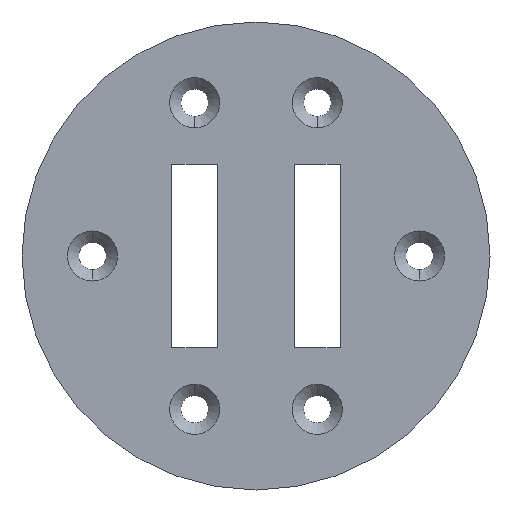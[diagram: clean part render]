
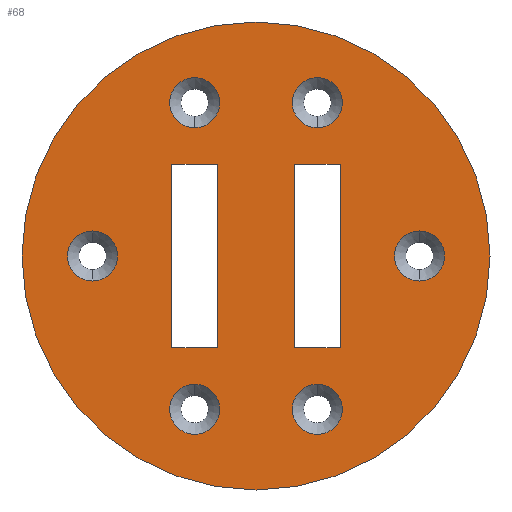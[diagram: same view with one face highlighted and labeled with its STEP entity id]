
A CAD part, front view. The second image highlights one B-rep face of the part: STEP entity #68.
In plain terms, the highlighted planar face has unit normal (0, -1, 0).
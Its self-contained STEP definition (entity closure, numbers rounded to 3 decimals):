
#47=FACE_BOUND('',#172,.F.);
#48=FACE_BOUND('',#173,.F.);
#49=FACE_BOUND('',#174,.F.);
#50=FACE_BOUND('',#175,.F.);
#51=FACE_BOUND('',#176,.F.);
#52=FACE_BOUND('',#177,.F.);
#53=FACE_BOUND('',#178,.F.);
#54=FACE_BOUND('',#179,.F.);
#56=PLANE('',#902);
#68=ADVANCED_FACE('',(#47,#48,#49,#50,#51,#52,#53,#54,#116),#56,.T.);
#116=FACE_OUTER_BOUND('',#180,.F.);
#172=EDGE_LOOP('',(#255,#256));
#173=EDGE_LOOP('',(#257,#258));
#174=EDGE_LOOP('',(#259,#260));
#175=EDGE_LOOP('',(#261,#262,#263,#264));
#176=EDGE_LOOP('',(#265,#266,#267,#268));
#177=EDGE_LOOP('',(#269,#270));
#178=EDGE_LOOP('',(#271,#272));
#179=EDGE_LOOP('',(#273,#274));
#180=EDGE_LOOP('',(#275,#276));
#255=ORIENTED_EDGE('',*,*,#618,.T.);
#256=ORIENTED_EDGE('',*,*,#617,.T.);
#257=ORIENTED_EDGE('',*,*,#626,.T.);
#258=ORIENTED_EDGE('',*,*,#625,.T.);
#259=ORIENTED_EDGE('',*,*,#634,.T.);
#260=ORIENTED_EDGE('',*,*,#633,.T.);
#261=ORIENTED_EDGE('',*,*,#645,.T.);
#262=ORIENTED_EDGE('',*,*,#647,.T.);
#263=ORIENTED_EDGE('',*,*,#649,.T.);
#264=ORIENTED_EDGE('',*,*,#643,.T.);
#265=ORIENTED_EDGE('',*,*,#637,.T.);
#266=ORIENTED_EDGE('',*,*,#639,.T.);
#267=ORIENTED_EDGE('',*,*,#641,.T.);
#268=ORIENTED_EDGE('',*,*,#635,.T.);
#269=ORIENTED_EDGE('',*,*,#630,.T.);
#270=ORIENTED_EDGE('',*,*,#629,.T.);
#271=ORIENTED_EDGE('',*,*,#622,.T.);
#272=ORIENTED_EDGE('',*,*,#621,.T.);
#273=ORIENTED_EDGE('',*,*,#614,.T.);
#274=ORIENTED_EDGE('',*,*,#613,.T.);
#275=ORIENTED_EDGE('',*,*,#656,.F.);
#276=ORIENTED_EDGE('',*,*,#652,.F.);
#487=LINE('',#1307,#549);
#489=LINE('',#1309,#551);
#491=LINE('',#1311,#553);
#493=LINE('',#1313,#555);
#495=LINE('',#1315,#557);
#497=LINE('',#1317,#559);
#499=LINE('',#1319,#561);
#501=LINE('',#1321,#563);
#549=VECTOR('',#998,4.5);
#551=VECTOR('',#1000,18.);
#553=VECTOR('',#1002,4.5);
#555=VECTOR('',#1004,18.);
#557=VECTOR('',#1006,4.5);
#559=VECTOR('',#1008,18.);
#561=VECTOR('',#1010,4.5);
#563=VECTOR('',#1012,18.);
#613=EDGE_CURVE('',#842,#841,#727,.T.);
#614=EDGE_CURVE('',#841,#842,#728,.T.);
#617=EDGE_CURVE('',#838,#837,#731,.T.);
#618=EDGE_CURVE('',#837,#838,#732,.T.);
#621=EDGE_CURVE('',#834,#833,#735,.T.);
#622=EDGE_CURVE('',#833,#834,#736,.T.);
#625=EDGE_CURVE('',#830,#829,#739,.T.);
#626=EDGE_CURVE('',#829,#830,#740,.T.);
#629=EDGE_CURVE('',#826,#825,#743,.T.);
#630=EDGE_CURVE('',#825,#826,#744,.T.);
#633=EDGE_CURVE('',#822,#821,#747,.T.);
#634=EDGE_CURVE('',#821,#822,#748,.T.);
#635=EDGE_CURVE('',#820,#819,#487,.T.);
#637=EDGE_CURVE('',#819,#816,#489,.T.);
#639=EDGE_CURVE('',#816,#814,#491,.T.);
#641=EDGE_CURVE('',#814,#820,#493,.T.);
#643=EDGE_CURVE('',#812,#811,#495,.T.);
#645=EDGE_CURVE('',#811,#808,#497,.T.);
#647=EDGE_CURVE('',#808,#806,#499,.T.);
#649=EDGE_CURVE('',#806,#812,#501,.T.);
#652=EDGE_CURVE('',#802,#801,#750,.T.);
#656=EDGE_CURVE('',#801,#802,#752,.T.);
#727=CIRCLE('',#849,2.45);
#728=CIRCLE('',#850,2.45);
#731=CIRCLE('',#853,2.45);
#732=CIRCLE('',#854,2.45);
#735=CIRCLE('',#857,2.45);
#736=CIRCLE('',#858,2.45);
#739=CIRCLE('',#861,2.45);
#740=CIRCLE('',#862,2.45);
#743=CIRCLE('',#865,2.45);
#744=CIRCLE('',#866,2.45);
#747=CIRCLE('',#869,2.45);
#748=CIRCLE('',#870,2.45);
#750=CIRCLE('',#872,22.9);
#752=CIRCLE('',#874,22.9);
#801=VERTEX_POINT('',#1239);
#802=VERTEX_POINT('',#1240);
#806=VERTEX_POINT('',#1244);
#808=VERTEX_POINT('',#1246);
#811=VERTEX_POINT('',#1249);
#812=VERTEX_POINT('',#1250);
#814=VERTEX_POINT('',#1252);
#816=VERTEX_POINT('',#1254);
#819=VERTEX_POINT('',#1257);
#820=VERTEX_POINT('',#1258);
#821=VERTEX_POINT('',#1259);
#822=VERTEX_POINT('',#1260);
#825=VERTEX_POINT('',#1263);
#826=VERTEX_POINT('',#1264);
#829=VERTEX_POINT('',#1267);
#830=VERTEX_POINT('',#1268);
#833=VERTEX_POINT('',#1271);
#834=VERTEX_POINT('',#1272);
#837=VERTEX_POINT('',#1275);
#838=VERTEX_POINT('',#1276);
#841=VERTEX_POINT('',#1279);
#842=VERTEX_POINT('',#1280);
#849=AXIS2_PLACEMENT_3D('',#1285,#954,#955);
#850=AXIS2_PLACEMENT_3D('',#1286,#956,#957);
#853=AXIS2_PLACEMENT_3D('',#1289,#962,#963);
#854=AXIS2_PLACEMENT_3D('',#1290,#964,#965);
#857=AXIS2_PLACEMENT_3D('',#1293,#970,#971);
#858=AXIS2_PLACEMENT_3D('',#1294,#972,#973);
#861=AXIS2_PLACEMENT_3D('',#1297,#978,#979);
#862=AXIS2_PLACEMENT_3D('',#1298,#980,#981);
#865=AXIS2_PLACEMENT_3D('',#1301,#986,#987);
#866=AXIS2_PLACEMENT_3D('',#1302,#988,#989);
#869=AXIS2_PLACEMENT_3D('',#1305,#994,#995);
#870=AXIS2_PLACEMENT_3D('',#1306,#996,#997);
#872=AXIS2_PLACEMENT_3D('',#1324,#1016,#1017);
#874=AXIS2_PLACEMENT_3D('',#1328,#1022,#1023);
#902=AXIS2_PLACEMENT_3D('',#1400,#1122,#1123);
#954=DIRECTION('',(0.,-1.,0.));
#955=DIRECTION('',(0.,0.,-1.));
#956=DIRECTION('',(0.,-1.,0.));
#957=DIRECTION('',(0.,0.,1.));
#962=DIRECTION('',(0.,-1.,0.));
#963=DIRECTION('',(0.,0.,-1.));
#964=DIRECTION('',(0.,-1.,0.));
#965=DIRECTION('',(0.,0.,1.));
#970=DIRECTION('',(0.,-1.,0.));
#971=DIRECTION('',(0.,0.,-1.));
#972=DIRECTION('',(0.,-1.,0.));
#973=DIRECTION('',(0.,0.,1.));
#978=DIRECTION('',(0.,-1.,0.));
#979=DIRECTION('',(0.,0.,1.));
#980=DIRECTION('',(0.,-1.,0.));
#981=DIRECTION('',(0.,0.,-1.));
#986=DIRECTION('',(0.,-1.,0.));
#987=DIRECTION('',(0.,0.,1.));
#988=DIRECTION('',(0.,-1.,0.));
#989=DIRECTION('',(0.,0.,-1.));
#994=DIRECTION('',(0.,-1.,0.));
#995=DIRECTION('',(0.,0.,1.));
#996=DIRECTION('',(0.,-1.,0.));
#997=DIRECTION('',(0.,0.,-1.));
#998=DIRECTION('',(1.,0.,0.));
#1000=DIRECTION('',(0.,0.,1.));
#1002=DIRECTION('',(-1.,0.,0.));
#1004=DIRECTION('',(0.,0.,-1.));
#1006=DIRECTION('',(-1.,0.,0.));
#1008=DIRECTION('',(0.,0.,-1.));
#1010=DIRECTION('',(1.,0.,0.));
#1012=DIRECTION('',(0.,0.,1.));
#1016=DIRECTION('',(0.,-1.,0.));
#1017=DIRECTION('',(0.,0.,1.));
#1022=DIRECTION('',(0.,-1.,0.));
#1023=DIRECTION('',(0.,0.,-1.));
#1122=DIRECTION('',(0.,-1.,0.));
#1123=DIRECTION('',(-1.,0.,0.));
#1239=CARTESIAN_POINT('',(352.137,234.452,-541.526));
#1240=CARTESIAN_POINT('',(352.137,234.452,-495.726));
#1244=CARTESIAN_POINT('',(348.387,234.452,-527.626));
#1246=CARTESIAN_POINT('',(343.887,234.452,-527.626));
#1249=CARTESIAN_POINT('',(343.887,234.452,-509.626));
#1250=CARTESIAN_POINT('',(348.387,234.452,-509.626));
#1252=CARTESIAN_POINT('',(355.887,234.452,-509.626));
#1254=CARTESIAN_POINT('',(360.387,234.452,-509.626));
#1257=CARTESIAN_POINT('',(360.387,234.452,-527.626));
#1258=CARTESIAN_POINT('',(355.887,234.452,-527.626));
#1259=CARTESIAN_POINT('',(358.137,234.452,-536.076));
#1260=CARTESIAN_POINT('',(358.137,234.452,-531.176));
#1263=CARTESIAN_POINT('',(368.137,234.452,-521.076));
#1264=CARTESIAN_POINT('',(368.137,234.452,-516.176));
#1267=CARTESIAN_POINT('',(358.137,234.452,-506.076));
#1268=CARTESIAN_POINT('',(358.137,234.452,-501.176));
#1271=CARTESIAN_POINT('',(346.137,234.452,-501.176));
#1272=CARTESIAN_POINT('',(346.137,234.452,-506.076));
#1275=CARTESIAN_POINT('',(336.137,234.452,-516.176));
#1276=CARTESIAN_POINT('',(336.137,234.452,-521.076));
#1279=CARTESIAN_POINT('',(346.137,234.452,-531.176));
#1280=CARTESIAN_POINT('',(346.137,234.452,-536.076));
#1285=CARTESIAN_POINT('',(346.137,234.452,-533.626));
#1286=CARTESIAN_POINT('',(346.137,234.452,-533.626));
#1289=CARTESIAN_POINT('',(336.137,234.452,-518.626));
#1290=CARTESIAN_POINT('',(336.137,234.452,-518.626));
#1293=CARTESIAN_POINT('',(346.137,234.452,-503.626));
#1294=CARTESIAN_POINT('',(346.137,234.452,-503.626));
#1297=CARTESIAN_POINT('',(358.137,234.452,-503.626));
#1298=CARTESIAN_POINT('',(358.137,234.452,-503.626));
#1301=CARTESIAN_POINT('',(368.137,234.452,-518.626));
#1302=CARTESIAN_POINT('',(368.137,234.452,-518.626));
#1305=CARTESIAN_POINT('',(358.137,234.452,-533.626));
#1306=CARTESIAN_POINT('',(358.137,234.452,-533.626));
#1307=CARTESIAN_POINT('',(355.887,234.452,-527.626));
#1309=CARTESIAN_POINT('',(360.387,234.452,-527.626));
#1311=CARTESIAN_POINT('',(360.387,234.452,-509.626));
#1313=CARTESIAN_POINT('',(355.887,234.452,-509.626));
#1315=CARTESIAN_POINT('',(348.387,234.452,-509.626));
#1317=CARTESIAN_POINT('',(343.887,234.452,-509.626));
#1319=CARTESIAN_POINT('',(343.887,234.452,-527.626));
#1321=CARTESIAN_POINT('',(348.387,234.452,-527.626));
#1324=CARTESIAN_POINT('',(352.137,234.452,-518.626));
#1328=CARTESIAN_POINT('',(352.137,234.452,-518.626));
#1400=CARTESIAN_POINT('',(375.495,234.452,-495.268));
